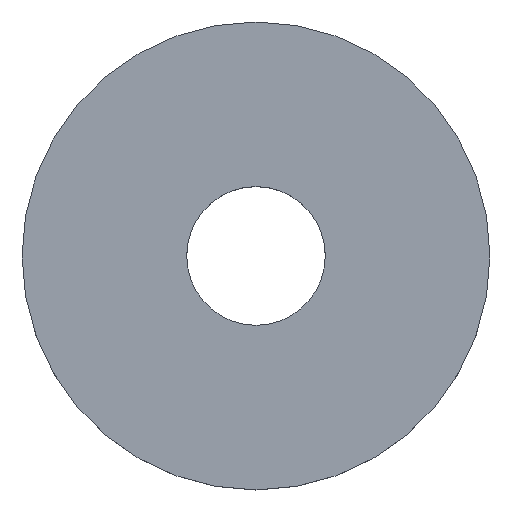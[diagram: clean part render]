
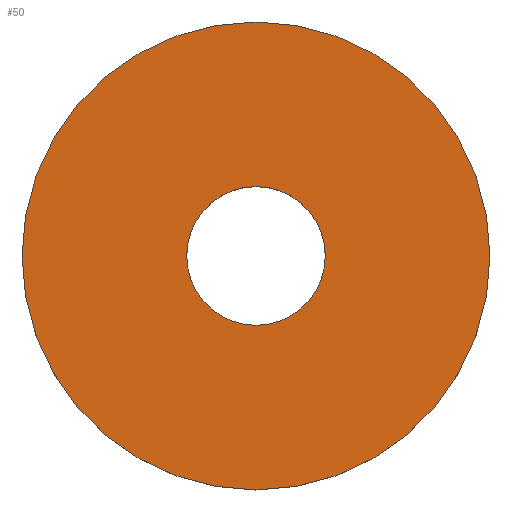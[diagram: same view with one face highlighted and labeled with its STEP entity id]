
A CAD part, top view. The second image highlights one B-rep face of the part: STEP entity #50.
In plain terms, the highlighted planar face has unit normal (0, 0, 1).
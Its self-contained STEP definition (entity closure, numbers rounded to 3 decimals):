
#21 = EDGE_CURVE('',#22,#22,#24,.T.);
#22 = VERTEX_POINT('',#23);
#23 = CARTESIAN_POINT('',(54.,0.,12.));
#24 = CIRCLE('',#25,54.);
#25 = AXIS2_PLACEMENT_3D('',#26,#27,#28);
#26 = CARTESIAN_POINT('',(0.,0.,12.));
#27 = DIRECTION('',(0.,0.,1.));
#28 = DIRECTION('',(1.,0.,-0.));
#50 = ADVANCED_FACE('',(#51,#54),#65,.T.);
#51 = FACE_BOUND('',#52,.T.);
#52 = EDGE_LOOP('',(#53));
#53 = ORIENTED_EDGE('',*,*,#21,.T.);
#54 = FACE_BOUND('',#55,.T.);
#55 = EDGE_LOOP('',(#56));
#56 = ORIENTED_EDGE('',*,*,#57,.F.);
#57 = EDGE_CURVE('',#58,#58,#60,.T.);
#58 = VERTEX_POINT('',#59);
#59 = CARTESIAN_POINT('',(16.,0.,12.));
#60 = CIRCLE('',#61,16.);
#61 = AXIS2_PLACEMENT_3D('',#62,#63,#64);
#62 = CARTESIAN_POINT('',(0.,0.,12.));
#63 = DIRECTION('',(0.,0.,1.));
#64 = DIRECTION('',(1.,0.,-0.));
#65 = PLANE('',#66);
#66 = AXIS2_PLACEMENT_3D('',#67,#68,#69);
#67 = CARTESIAN_POINT('',(0.,0.,12.));
#68 = DIRECTION('',(0.,0.,1.));
#69 = DIRECTION('',(1.,0.,-0.));
